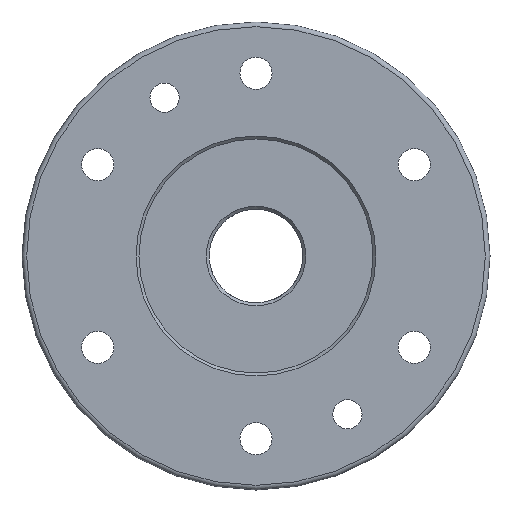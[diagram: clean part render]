
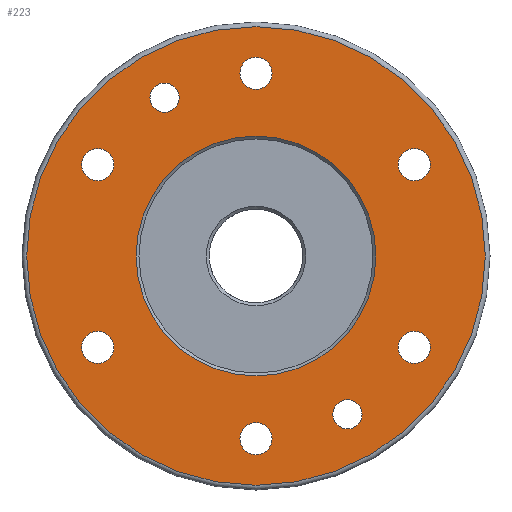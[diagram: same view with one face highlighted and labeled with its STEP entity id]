
A CAD part, front view. The second image highlights one B-rep face of the part: STEP entity #223.
In plain terms, the highlighted planar face has unit normal (0, -1, 0).
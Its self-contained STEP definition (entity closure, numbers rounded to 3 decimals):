
#73=CARTESIAN_POINT('',(-78.4,0.,0.0));
#74=VERTEX_POINT('',#73);
#75=CARTESIAN_POINT('',(0.0,0.,0.0));
#76=DIRECTION('',(0.0,1.0,0.0));
#77=DIRECTION('',(1.0,0.0,0.0));
#78=AXIS2_PLACEMENT_3D('',#75,#76,#77);
#79=CIRCLE('',#78,78.4);
#80=EDGE_CURVE('',#74,#74,#79,.T.);
#116=CARTESIAN_POINT('',(-48.0,0.,0.0));
#117=DIRECTION('',(0.0,-1.0,0.0));
#118=DIRECTION('',(0.0,0.0,-1.0));
#119=AXIS2_PLACEMENT_3D('',#116,#117,#118);
#120=PLANE('',#119);
#121=ORIENTED_EDGE('',*,*,#80,.F.);
#122=EDGE_LOOP('',(#121));
#123=FACE_OUTER_BOUND('',#122,.T.);
#124=CARTESIAN_POINT('',(41.0,0.,0.));
#125=VERTEX_POINT('',#124);
#126=CARTESIAN_POINT('',(0.0,0.,0.0));
#127=DIRECTION('',(0.0,-1.0,0.0));
#128=DIRECTION('',(-1.0,0.0,0.0));
#129=AXIS2_PLACEMENT_3D('',#126,#127,#128);
#130=CIRCLE('',#129,41.0);
#131=EDGE_CURVE('',#125,#125,#130,.T.);
#132=ORIENTED_EDGE('',*,*,#131,.F.);
#133=EDGE_LOOP('',(#132));
#134=FACE_BOUND('',#133,.T.);
#135=CARTESIAN_POINT('',(-5.5,0.0,-62.5));
#136=VERTEX_POINT('',#135);
#137=CARTESIAN_POINT('',(0.0,0.0,-62.5));
#138=DIRECTION('',(0.0,1.0,0.0));
#139=DIRECTION('',(1.0,0.0,0.0));
#140=AXIS2_PLACEMENT_3D('',#137,#138,#139);
#141=CIRCLE('',#140,5.5);
#142=EDGE_CURVE('',#136,#136,#141,.T.);
#143=ORIENTED_EDGE('',*,*,#142,.T.);
#144=EDGE_LOOP('',(#143));
#145=FACE_BOUND('',#144,.T.);
#146=CARTESIAN_POINT('',(-59.627,0.0,-31.25));
#147=VERTEX_POINT('',#146);
#148=CARTESIAN_POINT('',(-54.127,0.0,-31.25));
#149=DIRECTION('',(0.0,1.0,0.0));
#150=DIRECTION('',(1.0,0.0,0.0));
#151=AXIS2_PLACEMENT_3D('',#148,#149,#150);
#152=CIRCLE('',#151,5.5);
#153=EDGE_CURVE('',#147,#147,#152,.T.);
#154=ORIENTED_EDGE('',*,*,#153,.T.);
#155=EDGE_LOOP('',(#154));
#156=FACE_BOUND('',#155,.T.);
#157=CARTESIAN_POINT('',(-59.627,0.0,31.25));
#158=VERTEX_POINT('',#157);
#159=CARTESIAN_POINT('',(-54.127,0.0,31.25));
#160=DIRECTION('',(0.0,1.0,0.0));
#161=DIRECTION('',(1.0,0.0,0.0));
#162=AXIS2_PLACEMENT_3D('',#159,#160,#161);
#163=CIRCLE('',#162,5.5);
#164=EDGE_CURVE('',#158,#158,#163,.T.);
#165=ORIENTED_EDGE('',*,*,#164,.T.);
#166=EDGE_LOOP('',(#165));
#167=FACE_BOUND('',#166,.T.);
#168=CARTESIAN_POINT('',(-5.5,0.0,62.5));
#169=VERTEX_POINT('',#168);
#170=CARTESIAN_POINT('',(0.,0.0,62.5));
#171=DIRECTION('',(0.0,1.0,0.0));
#172=DIRECTION('',(1.0,0.0,0.0));
#173=AXIS2_PLACEMENT_3D('',#170,#171,#172);
#174=CIRCLE('',#173,5.5);
#175=EDGE_CURVE('',#169,#169,#174,.T.);
#176=ORIENTED_EDGE('',*,*,#175,.T.);
#177=EDGE_LOOP('',(#176));
#178=FACE_BOUND('',#177,.T.);
#179=CARTESIAN_POINT('',(48.627,0.0,31.25));
#180=VERTEX_POINT('',#179);
#181=CARTESIAN_POINT('',(54.127,0.0,31.25));
#182=DIRECTION('',(0.0,1.0,0.0));
#183=DIRECTION('',(1.0,0.0,0.0));
#184=AXIS2_PLACEMENT_3D('',#181,#182,#183);
#185=CIRCLE('',#184,5.5);
#186=EDGE_CURVE('',#180,#180,#185,.T.);
#187=ORIENTED_EDGE('',*,*,#186,.T.);
#188=EDGE_LOOP('',(#187));
#189=FACE_BOUND('',#188,.T.);
#190=CARTESIAN_POINT('',(48.627,0.0,-31.25));
#191=VERTEX_POINT('',#190);
#192=CARTESIAN_POINT('',(54.127,0.0,-31.25));
#193=DIRECTION('',(0.0,1.0,0.0));
#194=DIRECTION('',(1.0,0.0,0.0));
#195=AXIS2_PLACEMENT_3D('',#192,#193,#194);
#196=CIRCLE('',#195,5.5);
#197=EDGE_CURVE('',#191,#191,#196,.T.);
#198=ORIENTED_EDGE('',*,*,#197,.T.);
#199=EDGE_LOOP('',(#198));
#200=FACE_BOUND('',#199,.T.);
#201=CARTESIAN_POINT('',(-36.25,0.0,54.127));
#202=VERTEX_POINT('',#201);
#203=CARTESIAN_POINT('',(-31.25,0.0,54.127));
#204=DIRECTION('',(0.0,1.0,0.0));
#205=DIRECTION('',(1.0,0.0,0.0));
#206=AXIS2_PLACEMENT_3D('',#203,#204,#205);
#207=CIRCLE('',#206,5.0);
#208=EDGE_CURVE('',#202,#202,#207,.T.);
#209=ORIENTED_EDGE('',*,*,#208,.T.);
#210=EDGE_LOOP('',(#209));
#211=FACE_BOUND('',#210,.T.);
#212=CARTESIAN_POINT('',(26.25,0.0,-54.127));
#213=VERTEX_POINT('',#212);
#214=CARTESIAN_POINT('',(31.25,0.0,-54.127));
#215=DIRECTION('',(0.0,1.0,0.0));
#216=DIRECTION('',(1.0,0.0,0.0));
#217=AXIS2_PLACEMENT_3D('',#214,#215,#216);
#218=CIRCLE('',#217,5.0);
#219=EDGE_CURVE('',#213,#213,#218,.T.);
#220=ORIENTED_EDGE('',*,*,#219,.T.);
#221=EDGE_LOOP('',(#220));
#222=FACE_BOUND('',#221,.T.);
#223=ADVANCED_FACE('',(#123,#134,#145,#156,#167,#178,#189,#200,#211,#222),#120,.T.);
